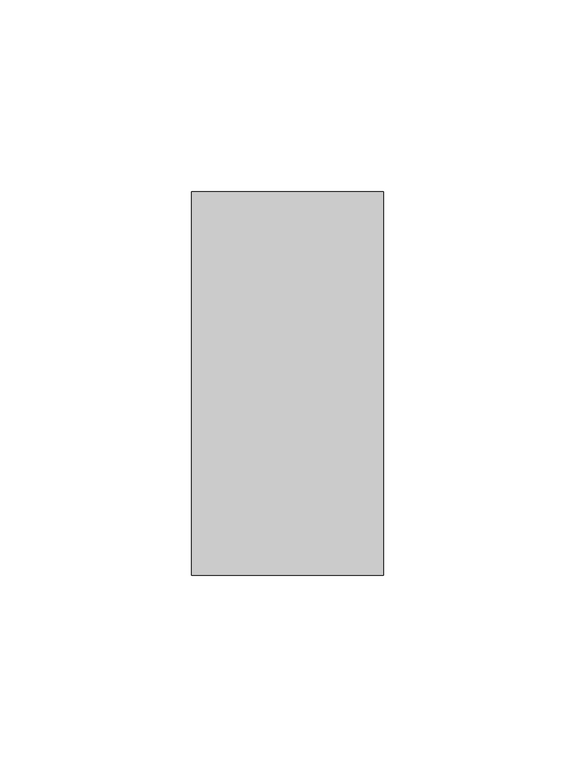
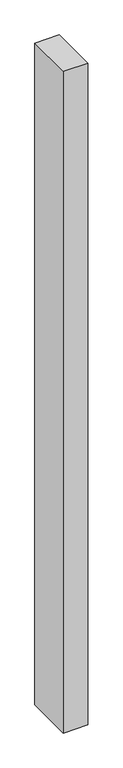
"""IFC4 building model written with IfcOpenShell, lengths in millimetres: member geometry, Прямоугольный импост : 50х100."""

from ifc_helpers import new_model, si_unit, frame, origin, place, context, project, spatial, polyline, outline, extrude, source, transform, mapped, element, save


def member_5adb4190(model_context):
    return source(origin(), model_context, "Body", "SweptSolid", [
        extrude(outline(polyline([(25.0, 50.0), (25.0, -50.0), (-25.0, -50.0), (-25.0, 50.0), (25.0, 50.0)])), frame((0.0, 0.0, -1425.0), z_axis=(0.0, 0.0, 1.0), x_axis=(1.0, 0.0, 0.0)), (0.0, 0.0, 1.0), 1425.0),
    ])


if __name__ == "__main__":
    model = new_model("IFC4")
    model_context = context("Model", 3, world=origin())
    ifc_project = project(units=[si_unit("LENGTHUNIT", "METRE", prefix="MILLI")], contexts=[model_context])
    site = spatial("IfcSite", under=ifc_project)
    building = spatial("IfcBuilding", under=site)
    placement = place(None, origin())
    member_shape = member_5adb4190(model_context)
    element("IfcMember", 1, ObjectType="Прямоугольный импост : 50х100", at=placement, inside=building, context=model_context, shape_type="MappedRepresentation", body=[
        mapped(member_shape, transform((0.0, 0.0, 0.0), x_axis=(1.0, 0.0, 0.0), y_axis=(0.0, 1.0, 0.0), z_axis=(0.0, 0.0, 1.0))),
    ])
    save(model, "model.ifc")
